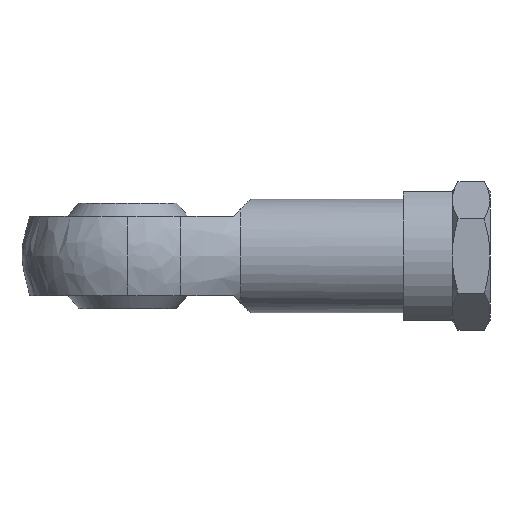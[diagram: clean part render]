
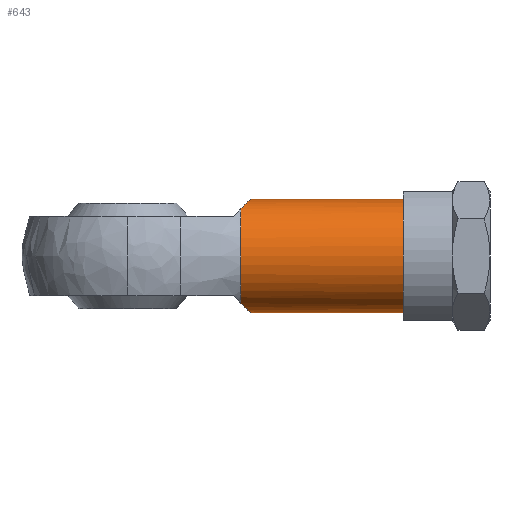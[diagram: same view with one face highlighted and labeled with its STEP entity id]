
A CAD part, front view. The second image highlights one B-rep face of the part: STEP entity #643.
In plain terms, the highlighted cylindrical face has radius 7.5 mm (diameter 15 mm), a partial arc.
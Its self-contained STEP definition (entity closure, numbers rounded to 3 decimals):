
#5 = DIRECTION ( 'NONE',  ( 0., 0., 1. ) ) ;
#109 = DIRECTION ( 'NONE',  ( 1., 0., 0. ) ) ;
#121 = VERTEX_POINT ( 'NONE', #1970 ) ;
#179 = CARTESIAN_POINT ( 'NONE',  ( 36.5, 0., 0. ) ) ;
#191 = LINE ( 'NONE', #2169, #1673 ) ;
#247 = CARTESIAN_POINT ( 'NONE',  ( 16.25, 0., -7.5 ) ) ;
#253 = CARTESIAN_POINT ( 'NONE',  ( 15., -4.146, -6.25 ) ) ;
#282 = EDGE_CURVE ( 'NONE', #881, #121, #1924, .T. ) ;
#336 = CARTESIAN_POINT ( 'NONE',  ( 16.25, 0., 7.5 ) ) ;
#377 = VERTEX_POINT ( 'NONE', #1198 ) ;
#421 = CARTESIAN_POINT ( 'NONE',  ( 15., -4.146, -6.25 ) ) ;
#550 = ORIENTED_EDGE ( 'NONE', *, *, #831, .T. ) ;
#557 = CARTESIAN_POINT ( 'NONE',  ( 16.25, -1.486, 7.5 ) ) ;
#570 = DIRECTION ( 'NONE',  ( -1., 0., 0. ) ) ;
#609 =( BOUNDED_CURVE ( )  B_SPLINE_CURVE ( 3, ( #336, #557, #2269, #1577 ),
 .UNSPECIFIED., .F., .F. ) 
 B_SPLINE_CURVE_WITH_KNOTS ( ( 4, 4 ),
 ( 3.142, 3.727 ),
 .UNSPECIFIED. ) 
 CURVE ( )  GEOMETRIC_REPRESENTATION_ITEM ( )  RATIONAL_B_SPLINE_CURVE ( ( 1., 0.972, 0.972, 1. ) ) 
 REPRESENTATION_ITEM ( '' )  );
#643 = ADVANCED_FACE ( 'NONE', ( #1452 ), #2141, .T. ) ;
#683 = AXIS2_PLACEMENT_3D ( 'NONE', #2229, #109, #1822 ) ;
#781 = VERTEX_POINT ( 'NONE', #2086 ) ;
#831 = EDGE_CURVE ( 'NONE', #781, #377, #609, .T. ) ;
#881 = VERTEX_POINT ( 'NONE', #1112 ) ;
#915 = VERTEX_POINT ( 'NONE', #1092 ) ;
#1092 = CARTESIAN_POINT ( 'NONE',  ( 36.5, 0., 7.5 ) ) ;
#1112 = CARTESIAN_POINT ( 'NONE',  ( 36.5, 0., -7.5 ) ) ;
#1119 = CARTESIAN_POINT ( 'NONE',  ( 16.25, -1.486, -7.5 ) ) ;
#1168 = VERTEX_POINT ( 'NONE', #253 ) ;
#1198 = CARTESIAN_POINT ( 'NONE',  ( 15., -4.146, 6.25 ) ) ;
#1206 = DIRECTION ( 'NONE',  ( -1., 0., 0. ) ) ;
#1241 =( BOUNDED_CURVE ( )  B_SPLINE_CURVE ( 3, ( #421, #1960, #1119, #247 ),
 .UNSPECIFIED., .F., .T. ) 
 B_SPLINE_CURVE_WITH_KNOTS ( ( 4, 4 ),
 ( 2.556, 3.142 ),
 .UNSPECIFIED. ) 
 CURVE ( )  GEOMETRIC_REPRESENTATION_ITEM ( )  RATIONAL_B_SPLINE_CURVE ( ( 1., 0.972, 0.972, 1. ) ) 
 REPRESENTATION_ITEM ( '' )  );
#1307 = AXIS2_PLACEMENT_3D ( 'NONE', #179, #1580, #5 ) ;
#1338 = ORIENTED_EDGE ( 'NONE', *, *, #2255, .T. ) ;
#1383 = ORIENTED_EDGE ( 'NONE', *, *, #1612, .T. ) ;
#1452 = FACE_OUTER_BOUND ( 'NONE', #1808, .T. ) ;
#1514 = ORIENTED_EDGE ( 'NONE', *, *, #2083, .T. ) ;
#1566 = CIRCLE ( 'NONE', #683, 7.5 ) ;
#1569 = EDGE_CURVE ( 'NONE', #881, #915, #1777, .T. ) ;
#1577 = CARTESIAN_POINT ( 'NONE',  ( 15., -4.146, 6.25 ) ) ;
#1580 = DIRECTION ( 'NONE',  ( -1., 0., 0. ) ) ;
#1593 = VECTOR ( 'NONE', #1206, 1000. ) ;
#1612 = EDGE_CURVE ( 'NONE', #1168, #121, #1241, .T. ) ;
#1614 = CARTESIAN_POINT ( 'NONE',  ( 43., 0., 0. ) ) ;
#1673 = VECTOR ( 'NONE', #1946, 1000. ) ;
#1722 = ORIENTED_EDGE ( 'NONE', *, *, #282, .F. ) ;
#1777 = CIRCLE ( 'NONE', #1307, 7.5 ) ;
#1808 = EDGE_LOOP ( 'NONE', ( #1722, #2121, #1514, #550, #1338, #1383 ) ) ;
#1822 = DIRECTION ( 'NONE',  ( 0., 0., 1. ) ) ;
#1924 = LINE ( 'NONE', #2249, #1593 ) ;
#1946 = DIRECTION ( 'NONE',  ( -1., 0., 0. ) ) ;
#1960 = CARTESIAN_POINT ( 'NONE',  ( 15.821, -2.908, -7.071 ) ) ;
#1970 = CARTESIAN_POINT ( 'NONE',  ( 16.25, 0., -7.5 ) ) ;
#1999 = DIRECTION ( 'NONE',  ( 0., 0., 1. ) ) ;
#2073 = AXIS2_PLACEMENT_3D ( 'NONE', #1614, #570, #1999 ) ;
#2083 = EDGE_CURVE ( 'NONE', #915, #781, #191, .T. ) ;
#2086 = CARTESIAN_POINT ( 'NONE',  ( 16.25, 0., 7.5 ) ) ;
#2121 = ORIENTED_EDGE ( 'NONE', *, *, #1569, .T. ) ;
#2141 = CYLINDRICAL_SURFACE ( 'NONE', #2073, 7.5 ) ;
#2169 = CARTESIAN_POINT ( 'NONE',  ( 43., 0., 7.5 ) ) ;
#2229 = CARTESIAN_POINT ( 'NONE',  ( 15., 0., 0. ) ) ;
#2249 = CARTESIAN_POINT ( 'NONE',  ( 43., 0., -7.5 ) ) ;
#2255 = EDGE_CURVE ( 'NONE', #377, #1168, #1566, .T. ) ;
#2269 = CARTESIAN_POINT ( 'NONE',  ( 15.821, -2.908, 7.071 ) ) ;
